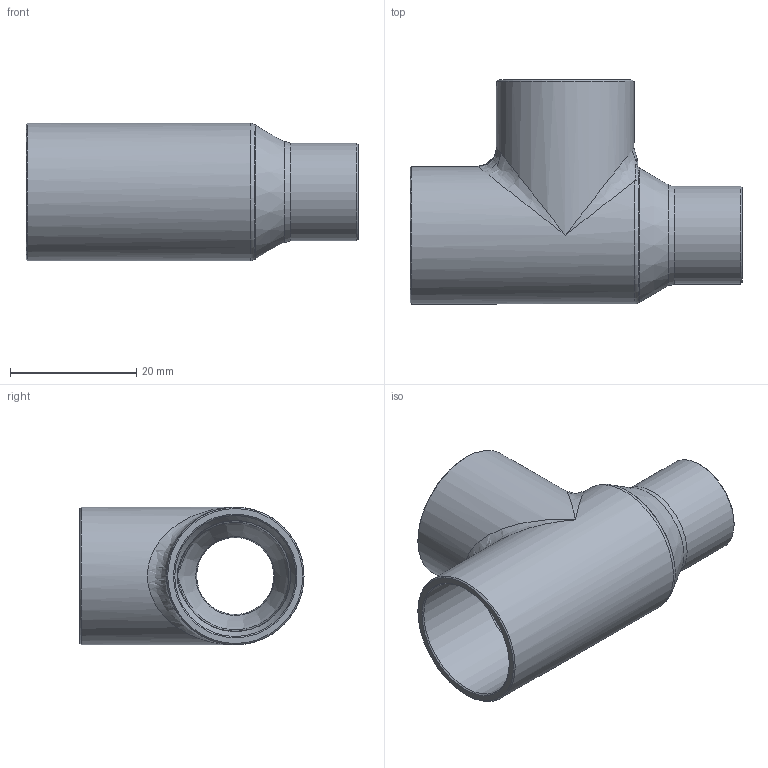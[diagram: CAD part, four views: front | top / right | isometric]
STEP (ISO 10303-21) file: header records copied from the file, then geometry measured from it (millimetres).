
FILE_DESCRIPTION((''),'2;1');
FILE_NAME('G:\SANHA-Ternat\Technik\Management\Bouwmaten + markeringen\z-maattekeningen 3D\29000s\29130343412_3d.stp','2017-08-01T09:59:12',('vdvijverd'),(''),'Autodesk Inventor 2009','Autodesk Inventor 2009','');
FILE_SCHEMA(('AUTOMOTIVE_DESIGN { 1 0 10303 214 1 1 1 1 }'));
Length unit declared in the file: millimetre
Products named in the file (1): 29130343412_3d
Bounding box: 52.6 x 35.5 x 21.8 mm (x, y, z)
Volume: 6131.8 mm3; surface area: 7870.4 mm2
Topology: 1 solids, 1 shells, 39 faces, 100 edges, 54 vertices
Faces by surface type: bspline 12, cone 11, cylinder 9, plane 4, torus 3
Full cylindrical faces by diameter (mm): 12.82 x1, 15.5 x1, 19.17 x2, 21.8 x2
Entity records: 2272 total; most frequent: CARTESIAN_POINT 1503, DIRECTION 152, ORIENTED_EDGE 132, AXIS2_PLACEMENT_3D 76, EDGE_CURVE 66, EDGE_LOOP 62, VERTEX_POINT 48, FACE_OUTER_BOUND 39
